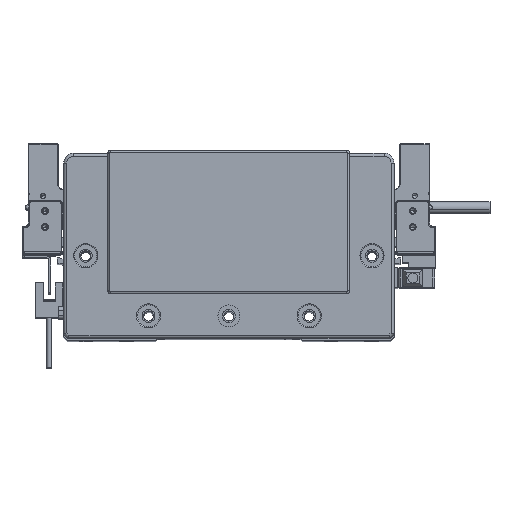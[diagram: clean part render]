
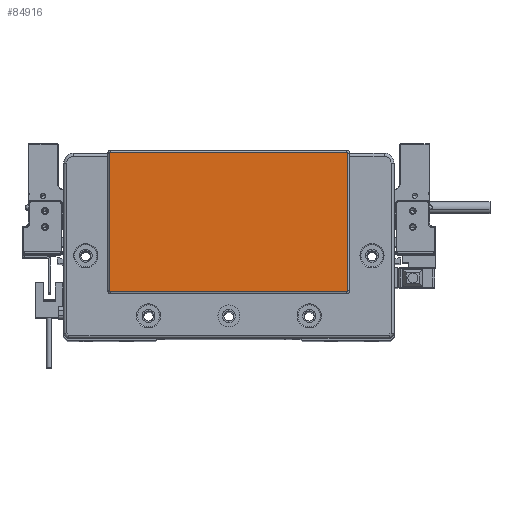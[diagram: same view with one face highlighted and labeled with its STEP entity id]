
A CAD part, top view. The second image highlights one B-rep face of the part: STEP entity #84916.
In plain terms, the highlighted planar face has unit normal (0, 0, 1) as drawn and (0, 0, -1) by its records, which use the part's own axes.
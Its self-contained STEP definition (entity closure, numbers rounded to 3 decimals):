
#105 = PLANE ( 'NONE',  #71748 ) ;
#1965 = ORIENTED_EDGE ( 'NONE', *, *, #48267, .T. ) ;
#2437 = ORIENTED_EDGE ( 'NONE', *, *, #3131, .T. ) ;
#3131 = EDGE_CURVE ( 'NONE', #62742, #41341, #45751, .T. ) ;
#5578 = ORIENTED_EDGE ( 'NONE', *, *, #54975, .T. ) ;
#6987 = DIRECTION ( 'NONE',  ( 0., 0., -1. ) ) ;
#11986 = CIRCLE ( 'NONE', #38448, 0.5 ) ;
#15023 = VECTOR ( 'NONE', #56278, 1000. ) ;
#15838 = LINE ( 'NONE', #29609, #60922 ) ;
#16155 = DIRECTION ( 'NONE',  ( 0., 0., -1. ) ) ;
#17017 = DIRECTION ( 'NONE',  ( -1., 0., 0. ) ) ;
#17799 = EDGE_CURVE ( 'NONE', #46156, #90164, #34702, .T. ) ;
#18172 = DIRECTION ( 'NONE',  ( 0., 0., -1. ) ) ;
#19081 = DIRECTION ( 'NONE',  ( 0., 0., -1. ) ) ;
#19518 = ORIENTED_EDGE ( 'NONE', *, *, #33882, .T. ) ;
#20257 = CARTESIAN_POINT ( 'NONE',  ( 59.25, 45.3, -2. ) ) ;
#20268 = CIRCLE ( 'NONE', #24734, 0.5 ) ;
#22952 = DIRECTION ( 'NONE',  ( 0., 0., -1. ) ) ;
#23358 = EDGE_CURVE ( 'NONE', #50988, #73755, #49015, .T. ) ;
#24734 = AXIS2_PLACEMENT_3D ( 'NONE', #42394, #16155, #44180 ) ;
#27351 = CARTESIAN_POINT ( 'NONE',  ( 59.25, -23.3, -2. ) ) ;
#28724 = DIRECTION ( 'NONE',  ( 1., 0., 0. ) ) ;
#29046 = DIRECTION ( 'NONE',  ( -1., 0., 0. ) ) ;
#29243 = CARTESIAN_POINT ( 'NONE',  ( -59.25, 45.3, -2. ) ) ;
#29609 = CARTESIAN_POINT ( 'NONE',  ( 58.75, 45.8, -2. ) ) ;
#32178 = LINE ( 'NONE', #52409, #84401 ) ;
#33882 = EDGE_CURVE ( 'NONE', #86172, #62742, #32178, .T. ) ;
#34576 = CARTESIAN_POINT ( 'NONE',  ( 0., 0., -2. ) ) ;
#34702 = LINE ( 'NONE', #27351, #15023 ) ;
#38448 = AXIS2_PLACEMENT_3D ( 'NONE', #85931, #22952, #86382 ) ;
#39434 = LINE ( 'NONE', #88603, #69915 ) ;
#39686 = ORIENTED_EDGE ( 'NONE', *, *, #17799, .T. ) ;
#41341 = VERTEX_POINT ( 'NONE', #69967 ) ;
#42394 = CARTESIAN_POINT ( 'NONE',  ( 58.75, -23.3, -2. ) ) ;
#43094 = EDGE_CURVE ( 'NONE', #69725, #46156, #11986, .T. ) ;
#44180 = DIRECTION ( 'NONE',  ( -1., 0., 0. ) ) ;
#44531 = ORIENTED_EDGE ( 'NONE', *, *, #77648, .T. ) ;
#45751 = CIRCLE ( 'NONE', #79542, 0.5 ) ;
#46156 = VERTEX_POINT ( 'NONE', #20257 ) ;
#46778 = DIRECTION ( 'NONE',  ( 0., 1., 0. ) ) ;
#48267 = EDGE_CURVE ( 'NONE', #41341, #50988, #39434, .T. ) ;
#49015 = CIRCLE ( 'NONE', #88644, 0.5 ) ;
#50988 = VERTEX_POINT ( 'NONE', #29243 ) ;
#52202 = DIRECTION ( 'NONE',  ( -1., 0., 0. ) ) ;
#52409 = CARTESIAN_POINT ( 'NONE',  ( -58.75, -23.8, -2. ) ) ;
#53693 = ORIENTED_EDGE ( 'NONE', *, *, #23358, .T. ) ;
#54975 = EDGE_CURVE ( 'NONE', #90164, #86172, #20268, .T. ) ;
#56278 = DIRECTION ( 'NONE',  ( 0., -1., 0. ) ) ;
#58491 = CARTESIAN_POINT ( 'NONE',  ( 59.25, -23.3, -2. ) ) ;
#60922 = VECTOR ( 'NONE', #28724, 1000. ) ;
#62742 = VERTEX_POINT ( 'NONE', #74707 ) ;
#65459 = ORIENTED_EDGE ( 'NONE', *, *, #43094, .T. ) ;
#67342 = CARTESIAN_POINT ( 'NONE',  ( -58.75, 45.3, -2. ) ) ;
#68239 = DIRECTION ( 'NONE',  ( -1., 0., 0. ) ) ;
#69725 = VERTEX_POINT ( 'NONE', #86014 ) ;
#69915 = VECTOR ( 'NONE', #46778, 1000. ) ;
#69967 = CARTESIAN_POINT ( 'NONE',  ( -59.25, -23.3, -2. ) ) ;
#71748 = AXIS2_PLACEMENT_3D ( 'NONE', #34576, #6987, #29046 ) ;
#73755 = VERTEX_POINT ( 'NONE', #84731 ) ;
#74707 = CARTESIAN_POINT ( 'NONE',  ( -58.75, -23.8, -2. ) ) ;
#77648 = EDGE_CURVE ( 'NONE', #73755, #69725, #15838, .T. ) ;
#79542 = AXIS2_PLACEMENT_3D ( 'NONE', #88023, #18172, #52202 ) ;
#84401 = VECTOR ( 'NONE', #17017, 1000. ) ;
#84731 = CARTESIAN_POINT ( 'NONE',  ( -58.75, 45.8, -2. ) ) ;
#84916 = ADVANCED_FACE ( 'NONE', ( #85102 ), #105, .T. ) ;
#85102 = FACE_OUTER_BOUND ( 'NONE', #88409, .T. ) ;
#85712 = CARTESIAN_POINT ( 'NONE',  ( 58.75, -23.8, -2. ) ) ;
#85931 = CARTESIAN_POINT ( 'NONE',  ( 58.75, 45.3, -2. ) ) ;
#86014 = CARTESIAN_POINT ( 'NONE',  ( 58.75, 45.8, -2. ) ) ;
#86172 = VERTEX_POINT ( 'NONE', #85712 ) ;
#86382 = DIRECTION ( 'NONE',  ( -1., 0., 0. ) ) ;
#88023 = CARTESIAN_POINT ( 'NONE',  ( -58.75, -23.3, -2. ) ) ;
#88409 = EDGE_LOOP ( 'NONE', ( #39686, #5578, #19518, #2437, #1965, #53693, #44531, #65459 ) ) ;
#88603 = CARTESIAN_POINT ( 'NONE',  ( -59.25, 45.3, -2. ) ) ;
#88644 = AXIS2_PLACEMENT_3D ( 'NONE', #67342, #19081, #68239 ) ;
#90164 = VERTEX_POINT ( 'NONE', #58491 ) ;
